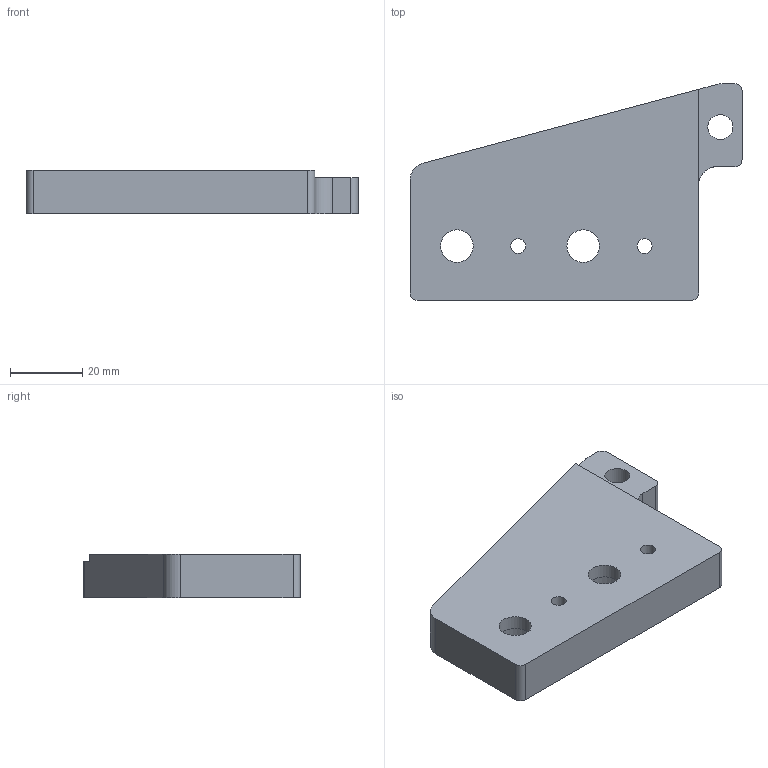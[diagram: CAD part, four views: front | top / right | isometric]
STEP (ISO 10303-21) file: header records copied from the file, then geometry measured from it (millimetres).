
FILE_DESCRIPTION(('STEP AP203'), '1');
FILE_NAME('眐珆1801.01.03.00.025 - 逄闉 瀁碭豂蠉', '', ('UNSPECIFIED'), ('UNSPECIFIED'), 'C3D Converter', 'C3D Toolkit', '');
FILE_SCHEMA(('CONFIG_CONTROL_DESIGN'));
Length unit declared in the file: millimetre
Products named in the file (1): ТППФ1801.01.03.00.025-01
Bounding box: 92 x 60 x 12 mm (x, y, z)
Volume: 44817.6 mm3; surface area: 12516.8 mm2
Topology: 1 solids, 1 shells, 29 faces, 72 edges, 47 vertices
Faces by surface type: cylinder 14, plane 12, cone 3
Full cylindrical faces by diameter (mm): 4.134 x2, 6.917 x1, 9 x2, 14 x2
Entity records: 1115 total; most frequent: DIRECTION 153, CARTESIAN_POINT 139, ORIENTED_EDGE 124, EDGE_CURVE 62, AXIS2_PLACEMENT_3D 61, EDGE_LOOP 51, VERTEX_POINT 47, FACE_BOUND 31
